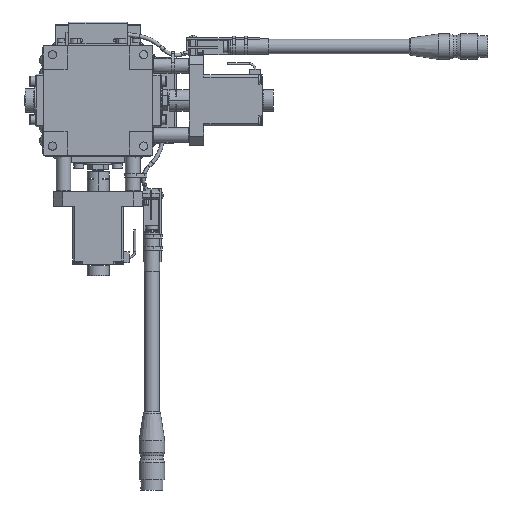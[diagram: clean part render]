
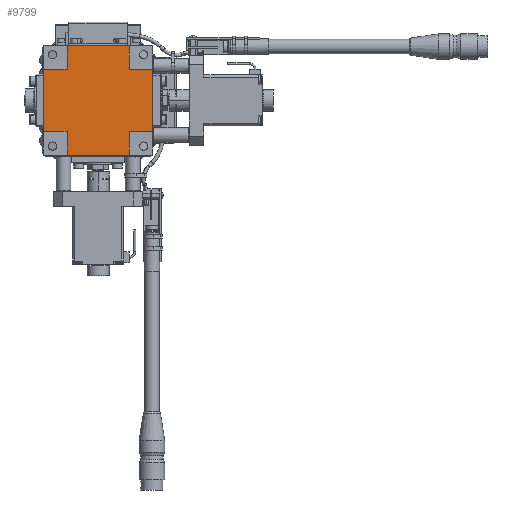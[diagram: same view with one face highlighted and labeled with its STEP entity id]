
A CAD part, front view. The second image highlights one B-rep face of the part: STEP entity #9799.
In plain terms, the highlighted planar face has unit normal (0, -1, 0).
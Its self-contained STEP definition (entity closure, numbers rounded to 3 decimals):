
#331 = DIRECTION ( 'NONE',  ( 0., 0., -1. ) ) ;
#1188 = LINE ( 'NONE', #33686, #51658 ) ;
#1269 = VECTOR ( 'NONE', #14574, 1000. ) ;
#3503 = CARTESIAN_POINT ( 'NONE',  ( -17., 0.3, -30. ) ) ;
#4316 = DIRECTION ( 'NONE',  ( 1., 0., 0. ) ) ;
#5011 = CARTESIAN_POINT ( 'NONE',  ( -17., 0.3, 30. ) ) ;
#5101 = ORIENTED_EDGE ( 'NONE', *, *, #48559, .T. ) ;
#6012 = AXIS2_PLACEMENT_3D ( 'NONE', #7394, #23353, #44194 ) ;
#6013 = VERTEX_POINT ( 'NONE', #12073 ) ;
#6605 = LINE ( 'NONE', #32227, #10470 ) ;
#6878 = LINE ( 'NONE', #29674, #37299 ) ;
#7220 = PLANE ( 'NONE',  #6012 ) ;
#7310 = VERTEX_POINT ( 'NONE', #47180 ) ;
#7394 = CARTESIAN_POINT ( 'NONE',  ( 0., 0.3, 0. ) ) ;
#8589 = DIRECTION ( 'NONE',  ( 0., 0., -1. ) ) ;
#8885 = VECTOR ( 'NONE', #43321, 1000. ) ;
#9483 = DIRECTION ( 'NONE',  ( -1., 0., 0. ) ) ;
#9757 = CARTESIAN_POINT ( 'NONE',  ( 17., 0.3, -30. ) ) ;
#9799 = ADVANCED_FACE ( 'NONE', ( #47157 ), #7220, .F. ) ;
#9991 = VECTOR ( 'NONE', #37247, 1000. ) ;
#10470 = VECTOR ( 'NONE', #28448, 1000. ) ;
#12073 = CARTESIAN_POINT ( 'NONE',  ( -17., 0.3, 17. ) ) ;
#13135 = VERTEX_POINT ( 'NONE', #51827 ) ;
#13723 = VERTEX_POINT ( 'NONE', #5011 ) ;
#14243 = LINE ( 'NONE', #51165, #17470 ) ;
#14574 = DIRECTION ( 'NONE',  ( 0., 0., 1. ) ) ;
#14878 = VERTEX_POINT ( 'NONE', #16679 ) ;
#15213 = CARTESIAN_POINT ( 'NONE',  ( -17., 0.3, -17. ) ) ;
#16185 = CARTESIAN_POINT ( 'NONE',  ( -17., 0.3, -30. ) ) ;
#16244 = CARTESIAN_POINT ( 'NONE',  ( 17., 0.3, 17. ) ) ;
#16504 = VERTEX_POINT ( 'NONE', #40389 ) ;
#16524 = CARTESIAN_POINT ( 'NONE',  ( 17., 0.3, 30. ) ) ;
#16679 = CARTESIAN_POINT ( 'NONE',  ( 30., 0.3, 17. ) ) ;
#17470 = VECTOR ( 'NONE', #26402, 1000. ) ;
#17633 = CARTESIAN_POINT ( 'NONE',  ( -30., 0.3, 17. ) ) ;
#18582 = CARTESIAN_POINT ( 'NONE',  ( 30., 0.3, 17. ) ) ;
#19165 = EDGE_CURVE ( 'NONE', #26910, #13723, #6605, .T. ) ;
#22002 = LINE ( 'NONE', #16185, #47320 ) ;
#22366 = EDGE_CURVE ( 'NONE', #51993, #31676, #1188, .T. ) ;
#23029 = ORIENTED_EDGE ( 'NONE', *, *, #25505, .T. ) ;
#23353 = DIRECTION ( 'NONE',  ( 0., 1., 0. ) ) ;
#24208 = VECTOR ( 'NONE', #51867, 1000. ) ;
#25085 = VECTOR ( 'NONE', #30442, 1000. ) ;
#25248 = EDGE_CURVE ( 'NONE', #27213, #41941, #14243, .T. ) ;
#25505 = EDGE_CURVE ( 'NONE', #41941, #52851, #22002, .T. ) ;
#26402 = DIRECTION ( 'NONE',  ( 1., 0., 0. ) ) ;
#26478 = ORIENTED_EDGE ( 'NONE', *, *, #26609, .T. ) ;
#26609 = EDGE_CURVE ( 'NONE', #7310, #26910, #42699, .T. ) ;
#26910 = VERTEX_POINT ( 'NONE', #16524 ) ;
#26940 = VECTOR ( 'NONE', #9483, 1000. ) ;
#27069 = LINE ( 'NONE', #38939, #8885 ) ;
#27213 = VERTEX_POINT ( 'NONE', #33326 ) ;
#27231 = ORIENTED_EDGE ( 'NONE', *, *, #22366, .T. ) ;
#28448 = DIRECTION ( 'NONE',  ( -1., 0., 0. ) ) ;
#29674 = CARTESIAN_POINT ( 'NONE',  ( 17., 0.3, -17. ) ) ;
#30036 = ORIENTED_EDGE ( 'NONE', *, *, #41360, .T. ) ;
#30442 = DIRECTION ( 'NONE',  ( 1., 0., 0. ) ) ;
#31676 = VERTEX_POINT ( 'NONE', #52563 ) ;
#32227 = CARTESIAN_POINT ( 'NONE',  ( -17., 0.3, 30. ) ) ;
#32428 = ORIENTED_EDGE ( 'NONE', *, *, #48618, .T. ) ;
#33326 = CARTESIAN_POINT ( 'NONE',  ( -30., 0.3, -17. ) ) ;
#33521 = DIRECTION ( 'NONE',  ( 0., 0., 1. ) ) ;
#33686 = CARTESIAN_POINT ( 'NONE',  ( 17., 0.3, -30. ) ) ;
#34058 = EDGE_CURVE ( 'NONE', #14878, #7310, #46325, .T. ) ;
#34396 = EDGE_CURVE ( 'NONE', #16504, #14878, #46271, .T. ) ;
#35085 = ORIENTED_EDGE ( 'NONE', *, *, #34396, .T. ) ;
#36707 = ORIENTED_EDGE ( 'NONE', *, *, #41844, .T. ) ;
#37247 = DIRECTION ( 'NONE',  ( -1., 0., 0. ) ) ;
#37299 = VECTOR ( 'NONE', #4316, 1000. ) ;
#37904 = LINE ( 'NONE', #17633, #26940 ) ;
#38939 = CARTESIAN_POINT ( 'NONE',  ( -30., 0.3, 17. ) ) ;
#39395 = CARTESIAN_POINT ( 'NONE',  ( 17., 0.3, 17. ) ) ;
#40389 = CARTESIAN_POINT ( 'NONE',  ( 30., 0.3, -17. ) ) ;
#41360 = EDGE_CURVE ( 'NONE', #6013, #13135, #37904, .T. ) ;
#41844 = EDGE_CURVE ( 'NONE', #13135, #27213, #27069, .T. ) ;
#41941 = VERTEX_POINT ( 'NONE', #15213 ) ;
#42699 = LINE ( 'NONE', #39395, #1269 ) ;
#43091 = CARTESIAN_POINT ( 'NONE',  ( -17., 0.3, -30. ) ) ;
#43321 = DIRECTION ( 'NONE',  ( 0., 0., -1. ) ) ;
#43465 = ORIENTED_EDGE ( 'NONE', *, *, #34058, .T. ) ;
#43559 = ORIENTED_EDGE ( 'NONE', *, *, #19165, .T. ) ;
#43699 = EDGE_LOOP ( 'NONE', ( #5101, #35085, #43465, #26478, #43559, #32428, #30036, #36707, #45331, #23029, #44534, #27231 ) ) ;
#44194 = DIRECTION ( 'NONE',  ( -1., 0., 0. ) ) ;
#44534 = ORIENTED_EDGE ( 'NONE', *, *, #48231, .T. ) ;
#45331 = ORIENTED_EDGE ( 'NONE', *, *, #25248, .T. ) ;
#46271 = LINE ( 'NONE', #18582, #24208 ) ;
#46325 = LINE ( 'NONE', #16244, #9991 ) ;
#47026 = VECTOR ( 'NONE', #8589, 1000. ) ;
#47126 = LINE ( 'NONE', #43091, #25085 ) ;
#47157 = FACE_OUTER_BOUND ( 'NONE', #43699, .T. ) ;
#47180 = CARTESIAN_POINT ( 'NONE',  ( 17., 0.3, 17. ) ) ;
#47320 = VECTOR ( 'NONE', #331, 1000. ) ;
#48231 = EDGE_CURVE ( 'NONE', #52851, #51993, #47126, .T. ) ;
#48559 = EDGE_CURVE ( 'NONE', #31676, #16504, #6878, .T. ) ;
#48618 = EDGE_CURVE ( 'NONE', #13723, #6013, #50899, .T. ) ;
#49545 = CARTESIAN_POINT ( 'NONE',  ( -17., 0.3, 17. ) ) ;
#50899 = LINE ( 'NONE', #49545, #47026 ) ;
#51165 = CARTESIAN_POINT ( 'NONE',  ( -30., 0.3, -17. ) ) ;
#51658 = VECTOR ( 'NONE', #33521, 1000. ) ;
#51827 = CARTESIAN_POINT ( 'NONE',  ( -30., 0.3, 17. ) ) ;
#51867 = DIRECTION ( 'NONE',  ( 0., 0., 1. ) ) ;
#51993 = VERTEX_POINT ( 'NONE', #9757 ) ;
#52563 = CARTESIAN_POINT ( 'NONE',  ( 17., 0.3, -17. ) ) ;
#52851 = VERTEX_POINT ( 'NONE', #3503 ) ;
